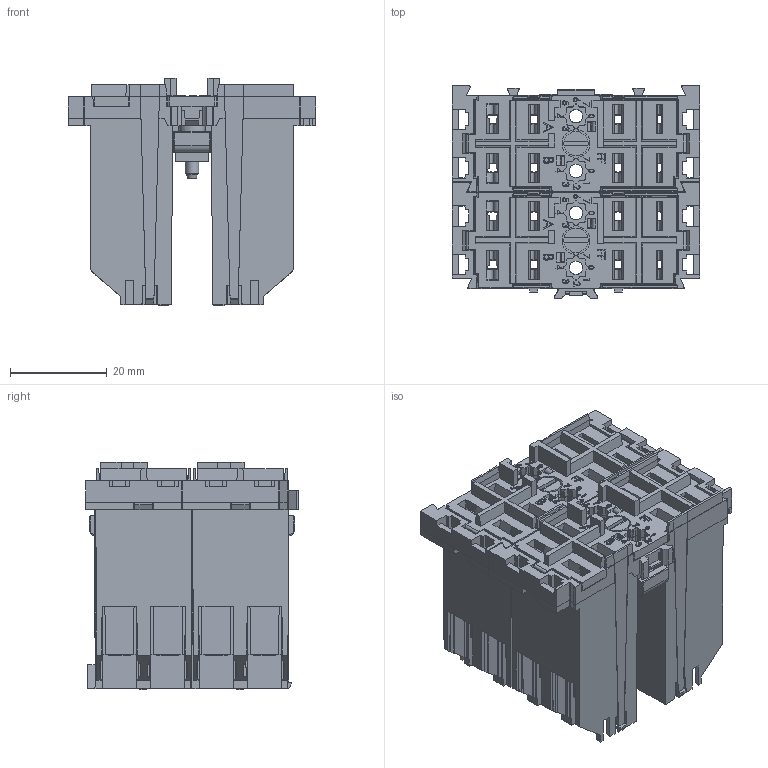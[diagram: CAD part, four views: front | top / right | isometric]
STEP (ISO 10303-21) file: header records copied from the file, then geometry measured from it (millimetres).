
FILE_DESCRIPTION (( 'STEP AP203' ), '1' );
FILE_NAME ('705750039_D Base FN TR2C OP FF.STEP', '2018-05-02T07:47:49', ( 'arteche' ), ( '' ), 'SwSTEP 2.0', 'SolidWorks 2017', '' );
FILE_SCHEMA (( 'CONFIG_CONTROL_DESIGN' ));
Length unit declared in the file: millimetre
Products named in the file (12): 418641619 BASE TR INFERIOR OP FF; XXXXXXXXX ALMA BASE DN TR2C OP FF; 270620248 TORNILLO CILINDRICO A M3x15 DIN-84 ZN; 584010045 TUERCA CUADRADA 7X7X2 M3_TUERCA CUADRADA 7X7X2 M.3; 567533344 SOPORTE FIJACION BASES TRASERAS PLUS_SOPORTE FIJACION BASES TRASERAS PLUS; 527570741 PINZA TR2C LARGA PLUS FASTON; 438351645_CAJA EMBALAJE 102X120X45 BASES; 527570642 PINZA TR2C CORTA PLUS FASTON; 705750039_D Base FN TR2C OP FF; 418641510 BASE TR SUPERIOR OP FF_BASE TR SUPERIOR PLUS
Assembly tree (28 placements, depth 3):
  438351645_CAJA EMBALAJE 102X120X45 BASES
  705750039_D Base FN TR2C OP FF
    XXXXXXXXX ALMA BASE DN TR2C OP FF
      418641619 BASE TR INFERIOR OP FF
      527570741 PINZA TR2C LARGA PLUS FASTON  x4
      527570642 PINZA TR2C CORTA PLUS FASTON  x4
      418641510 BASE TR SUPERIOR OP FF_BASE TR SUPERIOR PLUS
    XXXXXXXXX ALMA BASE DN TR2C OP FF
      418641619 BASE TR INFERIOR OP FF
      527570741 PINZA TR2C LARGA PLUS FASTON  x4
      527570642 PINZA TR2C CORTA PLUS FASTON  x4
      418641510 BASE TR SUPERIOR OP FF_BASE TR SUPERIOR PLUS
    270620248 TORNILLO CILINDRICO A M3x15 DIN-84 ZN  x2
    584010045 TUERCA CUADRADA 7X7X2 M3_TUERCA CUADRADA 7X7X2 M.3  x2
    567533344 SOPORTE FIJACION BASES TRASERAS PLUS_SOPORTE FIJACION BASES TRASERAS PLUS  x2
Bounding box: 51.2 x 43.91 x 47 mm (x, y, z)
Volume: 29751.4 mm3; surface area: 58800.2 mm2
Topology: 26 solids, 26 shells, 6716 faces, 17386 edges, 10836 vertices
Faces by surface type: plane 4951, bspline 901, cylinder 826, cone 34, torus 4
Full cylindrical faces by diameter (mm): 1.35 x32, 1.8 x4, 2.8 x2, 2.985 x2, 3 x2, 4.4 x2, 5 x2
Entity records: 140619 total; most frequent: CARTESIAN_POINT 46213, ORIENTED_EDGE 21106, DIRECTION 15864, EDGE_CURVE 10553, LINE 8462, VECTOR 8462, VERTEX_POINT 6860, EDGE_LOOP 4051
